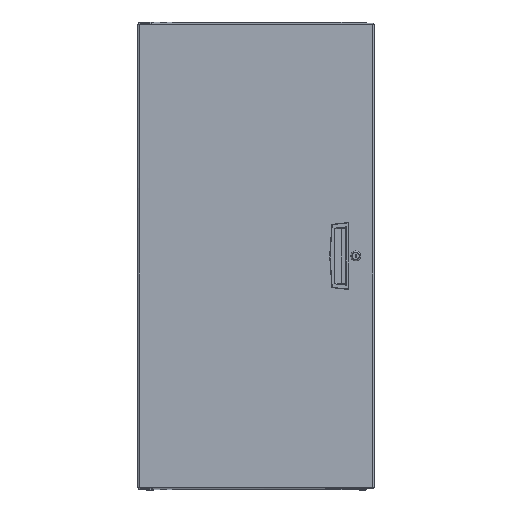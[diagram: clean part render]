
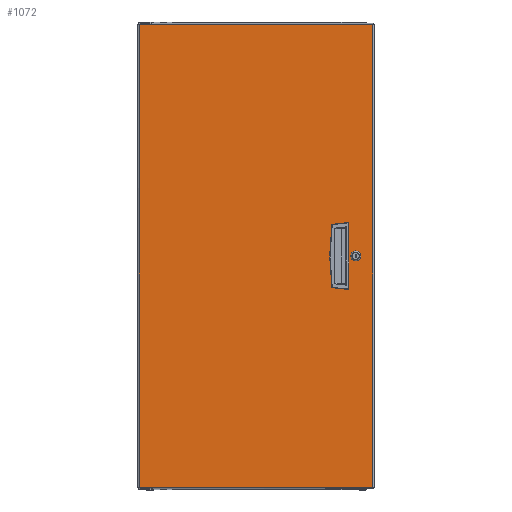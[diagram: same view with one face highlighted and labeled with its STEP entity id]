
A CAD part, top view. The second image highlights one B-rep face of the part: STEP entity #1072.
In plain terms, the highlighted planar face has unit normal (0, 0, 1).
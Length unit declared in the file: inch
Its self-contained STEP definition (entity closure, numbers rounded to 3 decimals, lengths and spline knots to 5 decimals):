
#1=DIRECTION('',(0.,-1.,0.));
#2=VECTOR('',#1,5.2);
#3=CARTESIAN_POINT('',(7.8275,2.6,0.));
#4=LINE('',#3,#2);
#5=DIRECTION('',(1.,0.,0.));
#6=VECTOR('',#5,1.21);
#7=CARTESIAN_POINT('',(6.6175,2.6,0.));
#8=LINE('',#7,#6);
#9=DIRECTION('',(0.,1.,0.));
#10=VECTOR('',#9,5.2);
#11=CARTESIAN_POINT('',(6.6175,-2.6,0.));
#12=LINE('',#11,#10);
#13=DIRECTION('',(-1.,0.,0.));
#14=VECTOR('',#13,1.21);
#15=CARTESIAN_POINT('',(7.8275,-2.6,0.));
#16=LINE('',#15,#14);
#17=CARTESIAN_POINT('',(8.5975,0.,0.));
#18=DIRECTION('',(0.,0.,1.));
#19=DIRECTION('',(0.521,-0.853,0.));
#20=AXIS2_PLACEMENT_3D('',#17,#18,#19);
#22=DIRECTION('',(1.,0.,0.));
#23=VECTOR('',#22,0.39102);
#24=CARTESIAN_POINT('',(8.40199,0.32,0.));
#25=LINE('',#24,#23);
#26=CARTESIAN_POINT('',(8.5975,0.,0.));
#27=DIRECTION('',(0.,0.,1.));
#28=DIRECTION('',(-0.521,0.853,0.));
#29=AXIS2_PLACEMENT_3D('',#26,#27,#28);
#31=DIRECTION('',(-1.,0.,0.));
#32=VECTOR('',#31,0.39102);
#33=CARTESIAN_POINT('',(8.79301,-0.32,0.));
#34=LINE('',#33,#32);
#47=DIRECTION('',(0.,-1.,0.));
#48=VECTOR('',#47,39.876);
#49=CARTESIAN_POINT('',(10.0785,19.938,0.));
#50=LINE('',#49,#48);
#153=DIRECTION('',(1.,0.,0.));
#154=VECTOR('',#153,20.157);
#155=CARTESIAN_POINT('',(-10.0785,19.938,0.));
#156=LINE('',#155,#154);
#177=DIRECTION('',(0.,1.,0.));
#178=VECTOR('',#177,39.876);
#179=CARTESIAN_POINT('',(-10.0785,-19.938,0.));
#180=LINE('',#179,#178);
#229=DIRECTION('',(-1.,0.,0.));
#230=VECTOR('',#229,20.157);
#231=CARTESIAN_POINT('',(10.0785,-19.938,0.));
#232=LINE('',#231,#230);
#837=CARTESIAN_POINT('',(-10.0785,19.938,0.));
#838=CARTESIAN_POINT('',(10.0785,19.938,0.));
#839=VERTEX_POINT('',#837);
#840=VERTEX_POINT('',#838);
#853=CARTESIAN_POINT('',(10.0785,-19.938,0.));
#854=CARTESIAN_POINT('',(-10.0785,-19.938,0.));
#855=VERTEX_POINT('',#853);
#856=VERTEX_POINT('',#854);
#925=CARTESIAN_POINT('',(7.8275,2.6,0.));
#926=CARTESIAN_POINT('',(7.8275,-2.6,0.));
#927=VERTEX_POINT('',#925);
#928=VERTEX_POINT('',#926);
#929=CARTESIAN_POINT('',(6.6175,-2.6,0.));
#930=VERTEX_POINT('',#929);
#931=CARTESIAN_POINT('',(6.6175,2.6,0.));
#932=VERTEX_POINT('',#931);
#933=CARTESIAN_POINT('',(8.79301,-0.32,0.));
#934=CARTESIAN_POINT('',(8.79301,0.32,0.));
#935=VERTEX_POINT('',#933);
#936=VERTEX_POINT('',#934);
#937=CARTESIAN_POINT('',(8.40199,-0.32,0.));
#938=VERTEX_POINT('',#937);
#939=CARTESIAN_POINT('',(8.40199,0.32,0.));
#940=VERTEX_POINT('',#939);
#1037=CARTESIAN_POINT('',(0.,0.,0.));
#1038=DIRECTION('',(0.,0.,1.));
#1039=DIRECTION('',(1.,0.,0.));
#1040=AXIS2_PLACEMENT_3D('',#1037,#1038,#1039);
#1041=PLANE('',#1040);
#1043=ORIENTED_EDGE('',*,*,#1042,.T.);
#1045=ORIENTED_EDGE('',*,*,#1044,.T.);
#1047=ORIENTED_EDGE('',*,*,#1046,.T.);
#1049=ORIENTED_EDGE('',*,*,#1048,.T.);
#1050=EDGE_LOOP('',(#1043,#1045,#1047,#1049));
#1051=FACE_OUTER_BOUND('',#1050,.F.);
#1053=ORIENTED_EDGE('',*,*,#1052,.F.);
#1055=ORIENTED_EDGE('',*,*,#1054,.F.);
#1057=ORIENTED_EDGE('',*,*,#1056,.F.);
#1059=ORIENTED_EDGE('',*,*,#1058,.F.);
#1060=EDGE_LOOP('',(#1053,#1055,#1057,#1059));
#1061=FACE_BOUND('',#1060,.F.);
#1063=ORIENTED_EDGE('',*,*,#1062,.T.);
#1065=ORIENTED_EDGE('',*,*,#1064,.F.);
#1067=ORIENTED_EDGE('',*,*,#1066,.T.);
#1069=ORIENTED_EDGE('',*,*,#1068,.F.);
#1070=EDGE_LOOP('',(#1063,#1065,#1067,#1069));
#1071=FACE_BOUND('',#1070,.F.);
#1072=ADVANCED_FACE('',(#1051,#1061,#1071),#1041,.T.);
#21=CIRCLE('',#20,0.375);
#30=CIRCLE('',#29,0.375);
#1042=EDGE_CURVE('',#840,#855,#50,.T.);
#1044=EDGE_CURVE('',#855,#856,#232,.T.);
#1046=EDGE_CURVE('',#856,#839,#180,.T.);
#1048=EDGE_CURVE('',#839,#840,#156,.T.);
#1052=EDGE_CURVE('',#927,#928,#4,.T.);
#1054=EDGE_CURVE('',#932,#927,#8,.T.);
#1056=EDGE_CURVE('',#930,#932,#12,.T.);
#1058=EDGE_CURVE('',#928,#930,#16,.T.);
#1062=EDGE_CURVE('',#935,#936,#21,.T.);
#1064=EDGE_CURVE('',#940,#936,#25,.T.);
#1066=EDGE_CURVE('',#940,#938,#30,.T.);
#1068=EDGE_CURVE('',#935,#938,#34,.T.);
